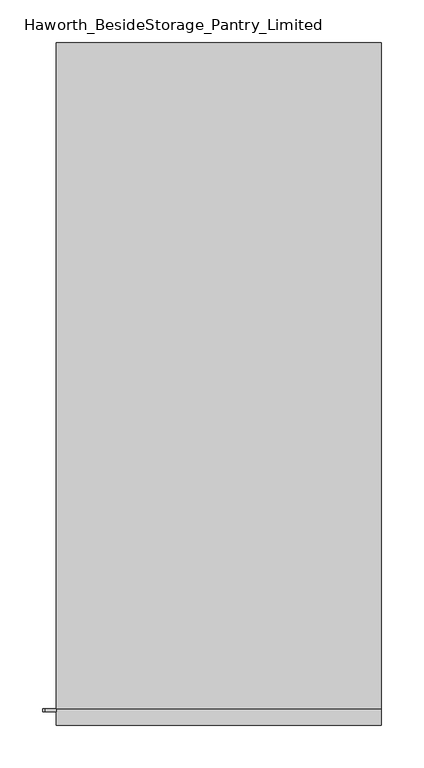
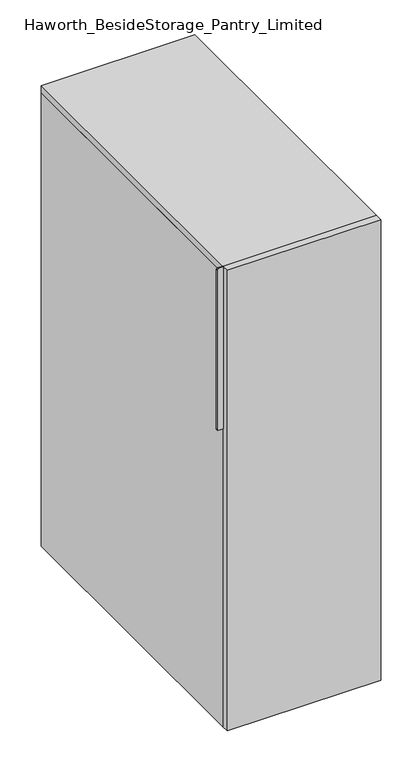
"""IFC4 building model written with IfcOpenShell, lengths in millimetres: furniture geometry, Haworth_BesideStorage_Pantry_Limited : 31.5d 15w 48h."""

from ifc_helpers import new_model, si_unit, point, frame, frame_2d, origin, place, context, project, spatial, polyline, circle_curve, trimmed, segment, composite_curve, outline, extrude, source, transform, mapped, element, save


def haworth_besidestorage_pantry_limited_ed2d5c58(model_context):
    return source(origin(), model_context, "Body", "SweptSolid", [
        extrude(outline(composite_curve([segment(polyline([(1219.2, -190.5), (1219.2, -203.2)]), True, "CONTINUOUS"), segment(trimmed(circle_curve(frame_2d((1216.025, -203.2)), 3.175), [point((1219.2, -203.2))], [point((1216.025, -206.375))], False, "CARTESIAN"), True, "CONTINUOUS"), segment(polyline([(1216.025, -206.375), (796.925, -206.375)]), True, "CONTINUOUS"), segment(trimmed(circle_curve(frame_2d((796.925, -203.2)), 3.175), [point((796.925, -206.375))], [point((793.75, -203.2))], False, "CARTESIAN"), True, "CONTINUOUS"), segment(polyline([(793.75, -203.2), (793.75, -190.5), (1219.2, -190.5)]), True, "CONTINUOUS")], self_intersect=False)), frame((0.0, -784.225, 0.0), z_axis=(0.0, 1.0, 0.0), x_axis=(0.0, 0.0, 1.0)), (0.0, 0.0, 1.0), 3.175),
        extrude(outline(polyline([(190.5, 0.0), (190.5, -781.05), (-190.5, -781.05), (-190.5, 0.0), (190.5, 0.0)])), frame((0.0, 0.0, 1200.15), z_axis=(0.0, 0.0, 1.0), x_axis=(1.0, 0.0, 0.0)), (0.0, 0.0, 1.0), 19.05),
        extrude(outline(polyline([(171.45, -19.05), (171.45, -781.05), (-171.45, -781.05), (-171.45, -19.05), (171.45, -19.05)])), frame((0.0, 0.0, 9.525), z_axis=(0.0, 0.0, 1.0), x_axis=(1.0, 0.0, 0.0)), (0.0, 0.0, 1.0), 19.05),
        extrude(outline(polyline([(190.5, 0.0), (190.5, -781.05), (171.45, -781.05), (171.45, -19.05), (-171.45, -19.05), (-171.45, -781.05), (-190.5, -781.05), (-190.5, 0.0), (190.5, 0.0)])), frame((0.0, 0.0, 9.525), z_axis=(0.0, 0.0, 1.0), x_axis=(1.0, 0.0, 0.0)), (0.0, 0.0, 1.0), 1190.625),
        extrude(outline(polyline([(190.5, -800.1), (-190.5, -800.1), (-190.5, -781.05), (190.5, -781.05), (190.5, -800.1)])), frame((0.0, 0.0, 9.525), z_axis=(0.0, 0.0, 1.0), x_axis=(1.0, 0.0, 0.0)), (0.0, 0.0, 1.0), 1209.675),
    ])


if __name__ == "__main__":
    model = new_model("IFC4")
    model_context = context("Model", 3, world=origin())
    ifc_project = project(units=[si_unit("LENGTHUNIT", "METRE", prefix="MILLI")], contexts=[model_context])
    site = spatial("IfcSite", under=ifc_project)
    building = spatial("IfcBuilding", under=site)
    placement = place(None, origin())
    haworth_besidestorage_pantry_limited_shape = haworth_besidestorage_pantry_limited_ed2d5c58(model_context)
    element("IfcFurniture", 1, ObjectType="Haworth_BesideStorage_Pantry_Limited : 31.5d 15w 48h", at=placement, inside=building, context=model_context, shape_type="MappedRepresentation", body=[
        mapped(haworth_besidestorage_pantry_limited_shape, transform((0.0, 0.0, 0.0), x_axis=(1.0, 0.0, 0.0), y_axis=(0.0, 1.0, 0.0), z_axis=(0.0, 0.0, 1.0))),
    ])
    save(model, "model.ifc")
